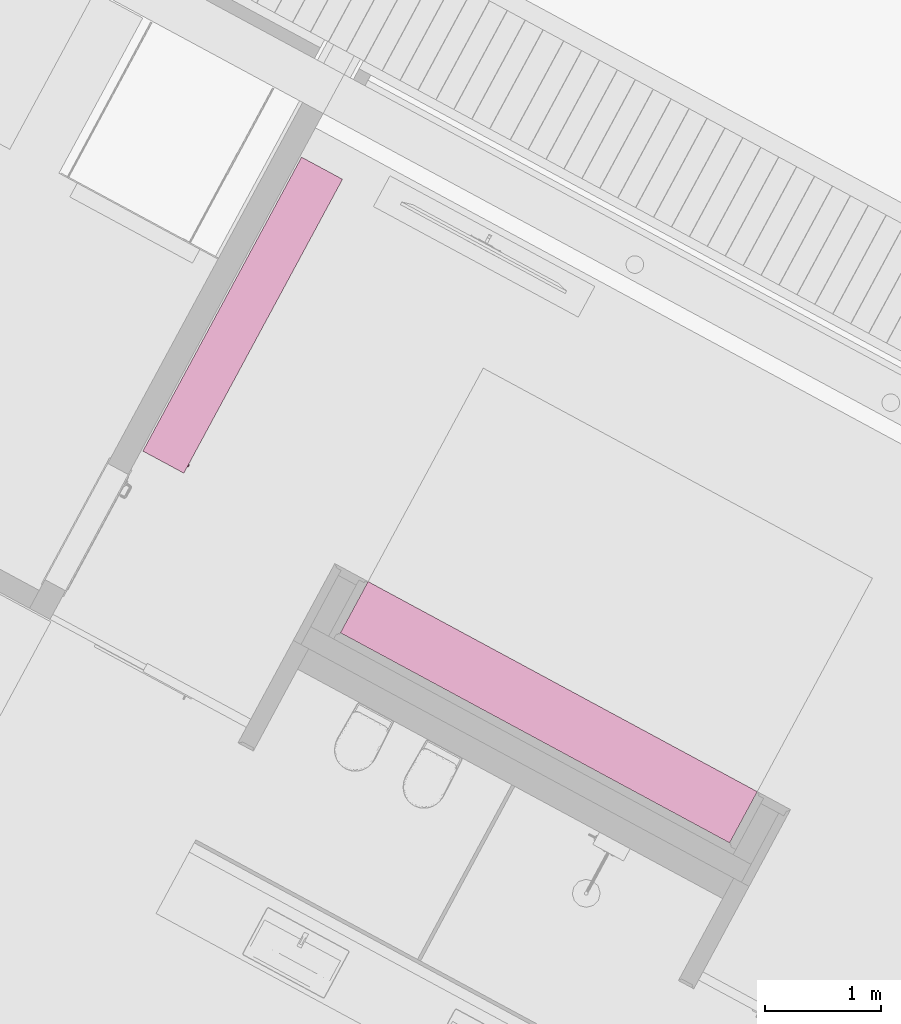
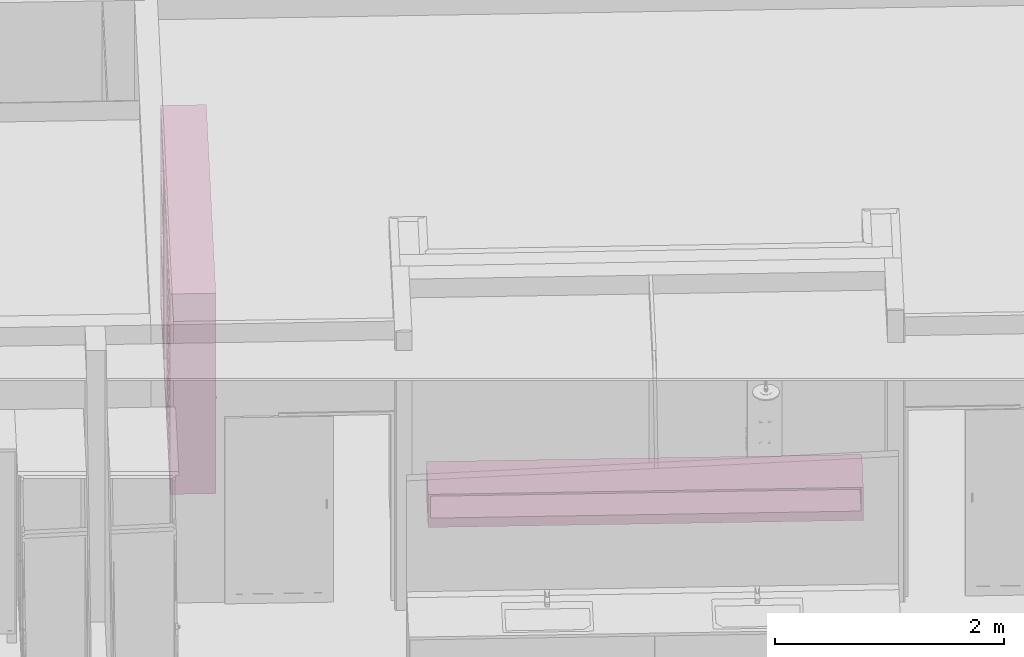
# One storey, part 33 of 48: 2 furnishings.
"""IFC2X3 building model written with IfcOpenShell, lengths in metres."""

from ifc_helpers import new_model, entity, si_unit, converted_unit, derived_unit, money_unit, direction, frame, origin_with_axes, place, context, subcontext, project, spatial, faceted_brep, type_object, element, save


model = new_model("IFC2X3")

# Units and contexts
model_context = context("Model", 3, precision=1e-05, world=origin_with_axes(), true_north=direction((0.0, 1.0)))
body_context = subcontext(model_context, "Body", "Model", "MODEL_VIEW")
ifc_project = project(units=[si_unit("LENGTHUNIT", "METRE"), si_unit("AREAUNIT", "SQUARE_METRE"), si_unit("VOLUMEUNIT", "CUBIC_METRE"), converted_unit("PLANEANGLEUNIT", "DEGREE", entity("IfcPlaneAngleMeasure", 0.0174532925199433), si_unit("PLANEANGLEUNIT", "RADIAN"), dimensions=[0, 0, 0, 0, 0, 0, 0]), money_unit("EUR"), converted_unit("TIMEUNIT", "Year", entity("IfcTimeMeasure", 31556926.0), si_unit("TIMEUNIT", "SECOND"), dimensions=[0, 0, 1, 0, 0, 0, 0]), si_unit("MASSUNIT", "GRAM", prefix="KILO"), si_unit("THERMODYNAMICTEMPERATUREUNIT", "DEGREE_CELSIUS"), si_unit("LUMINOUSINTENSITYUNIT", "LUMEN"), si_unit("ENERGYUNIT", "JOULE", prefix="MEGA"), derived_unit("THERMALCONDUCTANCEUNIT", [(si_unit("POWERUNIT", "WATT"), 1), (si_unit("LENGTHUNIT", "METRE"), -1), (si_unit("THERMODYNAMICTEMPERATUREUNIT", "KELVIN"), -1)]), derived_unit("SPECIFICHEATCAPACITYUNIT", [(si_unit("ENERGYUNIT", "JOULE"), 1), (si_unit("MASSUNIT", "GRAM", prefix="KILO"), -1), (si_unit("THERMODYNAMICTEMPERATUREUNIT", "KELVIN"), -1)]), derived_unit("MASSDENSITYUNIT", [(si_unit("MASSUNIT", "GRAM", prefix="KILO"), 1), (si_unit("VOLUMEUNIT", "CUBIC_METRE"), -1)])], contexts=[model_context])

# Site, building, storey
site_placement = place(None, frame((-3.949935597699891, 1.740105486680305, 0.0), z_axis=(0.0, 0.0, 1.0), x_axis=(0.8799804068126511, -0.475009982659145, 0.0)))
site = spatial("IfcSite", under=ifc_project, at=site_placement, Name="Gelände", CompositionType="ELEMENT")
building_placement = place(site_placement, origin_with_axes())
building = spatial("IfcBuilding", under=site, at=building_placement, Name="Gebäude", CompositionType="ELEMENT")
storey_placement = place(building_placement, frame((0.0, 0.0, 4.55), z_axis=(0.0, 0.0, 1.0), x_axis=(1.0, 0.0, 0.0)))
storey = spatial("IfcBuildingStorey", under=building, at=storey_placement, Name="Staffelgeschoss", CompositionType="ELEMENT", Elevation=4.55)

# Furnishings
furnishing_element_type_1 = type_object("IfcFurnishingElementType", Name="Kleiderschrank modular 22")
furnishing_1_placement = place(storey_placement, frame((17.78251543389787, 10.23955005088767, 0.0), z_axis=(0.0, 0.0, 1.0), x_axis=(0.0, 1.0, 0.0)))
element("IfcFurnishingElement", 1, at=furnishing_1_placement, inside=storey, type_object=furnishing_element_type_1, Name="Objekt-0066", context=body_context, shape_type="Brep", body=[
    faceted_brep([(-2.869979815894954, 0.4000000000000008, 0.09999999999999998), (-2.869979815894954, 0.0, 0.1), (-2.869979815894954, 0.0, 2.105), (-2.869979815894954, 0.4000000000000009, 2.105), (0.0, 0.4000000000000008, 0.09999999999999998), (0.0, 0.0, 0.1), (0.0, 0.0, 2.105), (-2.849979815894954, 0.0, 0.12), (-2.849979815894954, 0.0, 2.085), (-0.02, 0.0, 2.085), (-0.02, 0.0, 0.12), (0.0, 0.4000000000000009, 2.105), (-2.849979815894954, 0.4000000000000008, 0.12), (-0.02, 0.4000000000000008, 0.12), (-0.02, 0.4000000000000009, 2.085), (-2.849979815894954, 0.4000000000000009, 2.085)], [[[0, 1, 2, 3]], [[4, 5, 1, 0]], [[1, 5, 6, 2], [7, 8, 9, 10]], [[3, 2, 6, 11]], [[0, 3, 11, 4], [12, 13, 14, 15]], [[11, 6, 5, 4]], [[15, 8, 7, 12]], [[14, 9, 8, 15]], [[13, 10, 9, 14]], [[12, 7, 10, 13]]]),
    faceted_brep([(-0.9499932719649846, 0.4000000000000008, 0.12), (-0.9499932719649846, 0.4000000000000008, 2.085), (-0.9499932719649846, 0.07, 2.085), (-0.9499932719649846, 0.07, 0.12), (-0.9699932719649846, 0.4000000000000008, 0.12), (-0.9699932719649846, 0.4000000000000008, 2.085), (-0.9699932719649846, 0.07, 2.085), (-0.9699932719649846, 0.07, 0.12)], [[[0, 1, 2, 3]], [[4, 5, 1, 0]], [[1, 5, 6, 2]], [[3, 2, 6, 7]], [[0, 3, 7, 4]], [[7, 6, 5, 4]]]),
    faceted_brep([(-1.899986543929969, 0.4000000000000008, 0.12), (-1.899986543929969, 0.4000000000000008, 2.085), (-1.899986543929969, 0.07, 2.085), (-1.899986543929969, 0.07, 0.12), (-1.919986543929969, 0.4000000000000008, 0.12), (-1.919986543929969, 0.4000000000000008, 2.085), (-1.919986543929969, 0.07, 2.085), (-1.919986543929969, 0.07, 0.12)], [[[0, 1, 2, 3]], [[4, 5, 1, 0]], [[1, 5, 6, 2]], [[3, 2, 6, 7]], [[0, 3, 7, 4]], [[7, 6, 5, 4]]]),
    faceted_brep([(-2.869979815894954, 0.4000000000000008, 2.105), (-2.869979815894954, 0.0, 2.105), (-2.869979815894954, 0.0, 2.135), (-2.869979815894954, 0.4000000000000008, 2.135), (0.0, 0.4000000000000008, 2.105), (0.0, 0.0, 2.105), (0.0, 0.0, 2.135), (0.0, 0.4000000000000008, 2.135)], [[[0, 1, 2, 3]], [[0, 4, 5, 1]], [[1, 5, 6, 2]], [[3, 2, 6, 7]], [[4, 0, 3, 7]], [[5, 4, 7, 6]]]),
    faceted_brep([(-0.02000000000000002, 0.4000000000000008, 0.0), (-0.02000000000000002, 0.4000000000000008, 0.1), (-0.02000000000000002, 0.3800000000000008, 0.1), (-0.02000000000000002, 0.3800000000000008, 0.0), (-2.849979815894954, 0.4000000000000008, 0.0), (-2.849979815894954, 0.4000000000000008, 0.1), (-2.849979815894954, 0.3800000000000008, 0.1), (-2.849979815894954, 0.3800000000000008, 0.0)], [[[0, 1, 2, 3]], [[4, 5, 1, 0]], [[1, 5, 6, 2]], [[3, 2, 6, 7]], [[0, 3, 7, 4]], [[7, 6, 5, 4]]]),
    faceted_brep([(0.0, 0.4000000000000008, 0.0), (0.0, 0.4000000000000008, 0.1), (0.0, 0.0, 0.1), (0.0, 0.0, 0.0), (-0.02000000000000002, 0.4000000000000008, 0.0), (-0.02000000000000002, 0.4000000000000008, 0.1), (-0.02000000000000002, 0.0, 0.1), (-0.02000000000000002, 0.0, 0.0)], [[[0, 1, 2, 3]], [[4, 5, 1, 0]], [[1, 5, 6, 2]], [[3, 2, 6, 7]], [[0, 3, 7, 4]], [[7, 6, 5, 4]]]),
    faceted_brep([(-2.849979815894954, 0.4000000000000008, 0.0), (-2.849979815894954, 0.4000000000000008, 0.1), (-2.849979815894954, 0.0, 0.1), (-2.849979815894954, 0.0, 0.0), (-2.869979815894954, 0.4000000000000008, 0.0), (-2.869979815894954, 0.4000000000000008, 0.1), (-2.869979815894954, 0.0, 0.1), (-2.869979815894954, 0.0, 0.0)], [[[0, 1, 2, 3]], [[4, 5, 1, 0]], [[1, 5, 6, 2]], [[3, 2, 6, 7]], [[0, 3, 7, 4]], [[7, 6, 5, 4]]]),
    faceted_brep([(-0.02000000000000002, 0.04000000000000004, 0.0), (-0.02000000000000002, 0.04000000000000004, 0.1), (-0.02000000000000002, 0.02000000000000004, 0.1), (-0.02000000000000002, 0.02000000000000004, 0.0), (-2.849979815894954, 0.04000000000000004, 0.0), (-2.849979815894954, 0.04000000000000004, 0.1), (-2.849979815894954, 0.02000000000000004, 0.1), (-2.849979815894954, 0.02000000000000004, 0.0)], [[[0, 1, 2, 3]], [[4, 5, 1, 0]], [[1, 5, 6, 2]], [[3, 2, 6, 7]], [[0, 3, 7, 4]], [[7, 6, 5, 4]]]),
    faceted_brep([(-0.02, 0.4000000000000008, 0.7616666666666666), (-0.02, 0.4000000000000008, 0.7816666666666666), (-0.02, 0.07, 0.7816666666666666), (-0.02, 0.07, 0.7616666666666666), (-0.9499932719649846, 0.4000000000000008, 0.7616666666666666), (-0.9499932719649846, 0.4000000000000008, 0.7816666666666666), (-0.9499932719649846, 0.07, 0.7816666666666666), (-0.9499932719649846, 0.07, 0.7616666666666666)], [[[0, 1, 2, 3]], [[4, 5, 1, 0]], [[1, 5, 6, 2]], [[3, 2, 6, 7]], [[0, 3, 7, 4]], [[7, 6, 5, 4]]]),
    faceted_brep([(-0.02, 0.4000000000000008, 1.423333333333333), (-0.02, 0.4000000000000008, 1.443333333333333), (-0.02, 0.07, 1.443333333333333), (-0.02, 0.07, 1.423333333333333), (-0.9499932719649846, 0.4000000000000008, 1.423333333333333), (-0.9499932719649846, 0.4000000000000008, 1.443333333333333), (-0.9499932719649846, 0.07, 1.443333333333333), (-0.9499932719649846, 0.07, 1.423333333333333)], [[[0, 1, 2, 3]], [[4, 5, 1, 0]], [[1, 5, 6, 2]], [[3, 2, 6, 7]], [[0, 3, 7, 4]], [[7, 6, 5, 4]]]),
    faceted_brep([(-0.9699932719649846, 0.2190000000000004, 1.9475), (-0.9949932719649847, 0.2190000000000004, 1.9475), (-0.9949932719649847, 0.2270000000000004, 1.933643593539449), (-0.9699932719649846, 0.2270000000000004, 1.933643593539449), (-0.9699932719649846, 0.2190000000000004, 1.9725), (-0.9949932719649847, 0.2190000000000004, 1.9725), (-0.9949932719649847, 0.2270000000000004, 1.986356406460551), (-0.9949932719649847, 0.2430000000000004, 1.986356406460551), (-0.9949932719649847, 0.2510000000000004, 1.9725), (-0.9949932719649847, 0.2510000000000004, 1.9475), (-0.9949932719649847, 0.2430000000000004, 1.933643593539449), (-0.9699932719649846, 0.2430000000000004, 1.933643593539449), (-0.9699932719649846, 0.2510000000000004, 1.9475), (-0.9699932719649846, 0.2510000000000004, 1.9725), (-0.9699932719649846, 0.2430000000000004, 1.986356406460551), (-0.9699932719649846, 0.2270000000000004, 1.986356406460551)], [[[0, 1, 2, 3]], [[4, 5, 1, 0]], [[1, 5, 6, 7, 8, 9, 10, 2]], [[3, 2, 10, 11]], [[0, 3, 11, 12, 13, 14, 15, 4]], [[15, 6, 5, 4]], [[14, 7, 6, 15]], [[13, 8, 7, 14]], [[12, 9, 8, 13]], [[11, 10, 9, 12]]]),
    faceted_brep([(-0.9949932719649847, 0.2225000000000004, 1.9475), (-1.874986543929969, 0.2225000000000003, 1.9475), (-1.874986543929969, 0.2287500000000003, 1.936674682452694), (-0.9949932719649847, 0.2287500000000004, 1.936674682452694), (-0.9949932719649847, 0.2225000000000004, 1.9725), (-1.874986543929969, 0.2225000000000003, 1.9725), (-1.874986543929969, 0.2287500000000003, 1.983325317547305), (-1.874986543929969, 0.2412500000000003, 1.983325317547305), (-1.874986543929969, 0.2475000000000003, 1.9725), (-1.874986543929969, 0.2475000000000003, 1.9475), (-1.874986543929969, 0.2412500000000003, 1.936674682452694), (-0.9949932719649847, 0.2412500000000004, 1.936674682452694), (-0.9949932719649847, 0.2475000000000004, 1.9475), (-0.9949932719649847, 0.2475000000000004, 1.9725), (-0.9949932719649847, 0.2412500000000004, 1.983325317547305), (-0.9949932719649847, 0.2287500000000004, 1.983325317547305)], [[[0, 1, 2, 3]], [[4, 5, 1, 0]], [[1, 5, 6, 7, 8, 9, 10, 2]], [[3, 2, 10, 11]], [[0, 3, 11, 12, 13, 14, 15, 4]], [[15, 6, 5, 4]], [[14, 7, 6, 15]], [[13, 8, 7, 14]], [[12, 9, 8, 13]], [[11, 10, 9, 12]]]),
    faceted_brep([(-1.874986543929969, 0.2190000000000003, 1.9475), (-1.899986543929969, 0.2190000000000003, 1.9475), (-1.899986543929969, 0.2270000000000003, 1.933643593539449), (-1.874986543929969, 0.2270000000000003, 1.933643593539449), (-1.874986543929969, 0.2190000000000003, 1.9725), (-1.899986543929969, 0.2190000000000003, 1.9725), (-1.899986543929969, 0.2270000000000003, 1.986356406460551), (-1.899986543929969, 0.2430000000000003, 1.986356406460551), (-1.899986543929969, 0.2510000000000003, 1.9725), (-1.899986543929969, 0.2510000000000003, 1.9475), (-1.899986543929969, 0.2430000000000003, 1.933643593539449), (-1.874986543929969, 0.2430000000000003, 1.933643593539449), (-1.874986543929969, 0.2510000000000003, 1.9475), (-1.874986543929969, 0.2510000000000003, 1.9725), (-1.874986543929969, 0.2430000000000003, 1.986356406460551), (-1.874986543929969, 0.2270000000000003, 1.986356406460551)], [[[0, 1, 2, 3]], [[4, 5, 1, 0]], [[1, 5, 6, 7, 8, 9, 10, 2]], [[3, 2, 10, 11]], [[0, 3, 11, 12, 13, 14, 15, 4]], [[15, 6, 5, 4]], [[14, 7, 6, 15]], [[13, 8, 7, 14]], [[12, 9, 8, 13]], [[11, 10, 9, 12]]]),
    faceted_brep([(-1.919986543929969, 0.4000000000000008, 0.3835714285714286), (-1.919986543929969, 0.4000000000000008, 0.4035714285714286), (-1.919986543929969, 0.07, 0.4035714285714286), (-1.919986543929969, 0.07, 0.3835714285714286), (-2.849979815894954, 0.4000000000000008, 0.3835714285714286), (-2.849979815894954, 0.4000000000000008, 0.4035714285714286), (-2.849979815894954, 0.07, 0.4035714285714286), (-2.849979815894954, 0.07, 0.3835714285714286)], [[[0, 1, 2, 3]], [[4, 5, 1, 0]], [[1, 5, 6, 2]], [[3, 2, 6, 7]], [[0, 3, 7, 4]], [[7, 6, 5, 4]]]),
    faceted_brep([(-1.919986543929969, 0.4000000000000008, 0.667142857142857), (-1.919986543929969, 0.4000000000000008, 0.687142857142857), (-1.919986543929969, 0.07, 0.687142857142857), (-1.919986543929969, 0.07, 0.667142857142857), (-2.849979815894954, 0.4000000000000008, 0.667142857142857), (-2.849979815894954, 0.4000000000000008, 0.687142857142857), (-2.849979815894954, 0.07, 0.687142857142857), (-2.849979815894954, 0.07, 0.667142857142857)], [[[0, 1, 2, 3]], [[4, 5, 1, 0]], [[1, 5, 6, 2]], [[3, 2, 6, 7]], [[0, 3, 7, 4]], [[7, 6, 5, 4]]]),
    faceted_brep([(-1.919986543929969, 0.4000000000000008, 0.9507142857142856), (-1.919986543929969, 0.4000000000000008, 0.9707142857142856), (-1.919986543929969, 0.07, 0.9707142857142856), (-1.919986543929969, 0.07, 0.9507142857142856), (-2.849979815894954, 0.4000000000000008, 0.9507142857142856), (-2.849979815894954, 0.4000000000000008, 0.9707142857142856), (-2.849979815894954, 0.07, 0.9707142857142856), (-2.849979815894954, 0.07, 0.9507142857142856)], [[[0, 1, 2, 3]], [[4, 5, 1, 0]], [[1, 5, 6, 2]], [[3, 2, 6, 7]], [[0, 3, 7, 4]], [[7, 6, 5, 4]]]),
    faceted_brep([(-1.919986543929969, 0.4000000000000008, 1.234285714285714), (-1.919986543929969, 0.4000000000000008, 1.254285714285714), (-1.919986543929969, 0.07, 1.254285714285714), (-1.919986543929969, 0.07, 1.234285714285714), (-2.849979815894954, 0.4000000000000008, 1.234285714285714), (-2.849979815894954, 0.4000000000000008, 1.254285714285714), (-2.849979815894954, 0.07, 1.254285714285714), (-2.849979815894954, 0.07, 1.234285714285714)], [[[0, 1, 2, 3]], [[4, 5, 1, 0]], [[1, 5, 6, 2]], [[3, 2, 6, 7]], [[0, 3, 7, 4]], [[7, 6, 5, 4]]]),
    faceted_brep([(-1.919986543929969, 0.4000000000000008, 1.517857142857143), (-1.919986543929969, 0.4000000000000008, 1.537857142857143), (-1.919986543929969, 0.07, 1.537857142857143), (-1.919986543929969, 0.07, 1.517857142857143), (-2.849979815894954, 0.4000000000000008, 1.517857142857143), (-2.849979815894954, 0.4000000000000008, 1.537857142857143), (-2.849979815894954, 0.07, 1.537857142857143), (-2.849979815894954, 0.07, 1.517857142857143)], [[[0, 1, 2, 3]], [[4, 5, 1, 0]], [[1, 5, 6, 2]], [[3, 2, 6, 7]], [[0, 3, 7, 4]], [[7, 6, 5, 4]]]),
    faceted_brep([(-1.919986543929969, 0.4000000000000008, 1.801428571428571), (-1.919986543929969, 0.4000000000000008, 1.821428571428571), (-1.919986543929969, 0.07, 1.821428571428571), (-1.919986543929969, 0.07, 1.801428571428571), (-2.849979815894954, 0.4000000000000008, 1.801428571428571), (-2.849979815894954, 0.4000000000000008, 1.821428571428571), (-2.849979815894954, 0.07, 1.821428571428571), (-2.849979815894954, 0.07, 1.801428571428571)], [[[0, 1, 2, 3]], [[4, 5, 1, 0]], [[1, 5, 6, 2]], [[3, 2, 6, 7]], [[0, 3, 7, 4]], [[7, 6, 5, 4]]]),
    faceted_brep([(-0.02, 0.05000000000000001, 0.12), (-0.02, 0.01000000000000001, 0.12), (-2.849979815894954, 0.01000000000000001, 0.12), (-2.849979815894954, 0.05000000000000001, 0.12), (-0.02, 0.05000000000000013, 2.085), (-0.02, 0.01000000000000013, 2.085), (-2.849979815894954, 0.01000000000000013, 2.085), (-0.025, 0.01000000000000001, 0.125), (-2.844979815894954, 0.01000000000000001, 0.125), (-2.844979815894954, 0.01000000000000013, 2.08), (-0.025, 0.01000000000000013, 2.08), (-2.849979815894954, 0.05000000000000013, 2.085), (-0.025, 0.05000000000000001, 0.125), (-0.025, 0.05000000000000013, 2.08), (-2.844979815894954, 0.05000000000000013, 2.08), (-2.844979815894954, 0.05000000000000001, 0.125)], [[[0, 1, 2, 3]], [[4, 5, 1, 0]], [[1, 5, 6, 2], [7, 8, 9, 10]], [[3, 2, 6, 11]], [[0, 3, 11, 4], [12, 13, 14, 15]], [[11, 6, 5, 4]], [[15, 8, 7, 12]], [[14, 9, 8, 15]], [[13, 10, 9, 14]], [[12, 7, 10, 13]]]),
    faceted_brep([(-1.434989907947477, 0.05, 0.125), (-1.434989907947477, 0.03, 0.125), (-1.434989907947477, 0.03000000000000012, 2.08), (-1.434989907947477, 0.05000000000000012, 2.08), (-1.374989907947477, 0.05000000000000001, 0.185), (-1.374989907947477, 0.03000000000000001, 0.185), (-1.374989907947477, 0.03000000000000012, 2.02), (-1.374989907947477, 0.05000000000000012, 2.02)], [[[0, 1, 2, 3]], [[4, 5, 1, 0]], [[1, 5, 6, 2]], [[3, 2, 6, 7]], [[0, 3, 7, 4]], [[7, 6, 5, 4]]]),
    faceted_brep([(-0.08500000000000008, 0.05000000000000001, 0.185), (-0.08500000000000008, 0.03000000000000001, 0.185), (-0.08500000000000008, 0.03000000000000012, 2.02), (-0.08500000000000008, 0.05000000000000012, 2.02), (-0.02500000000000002, 0.05, 0.125), (-0.02500000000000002, 0.03, 0.125), (-0.02500000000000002, 0.03000000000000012, 2.08), (-0.02500000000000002, 0.05000000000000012, 2.08)], [[[0, 1, 2, 3]], [[4, 5, 1, 0]], [[1, 5, 6, 2]], [[3, 2, 6, 7]], [[0, 3, 7, 4]], [[7, 6, 5, 4]]]),
    faceted_brep([(-0.02500000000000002, 0.05, 0.125), (-0.02500000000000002, 0.03, 0.125), (-1.434989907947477, 0.03, 0.125), (-1.434989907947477, 0.05, 0.125), (-0.08500000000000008, 0.05000000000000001, 0.185), (-0.08500000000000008, 0.03000000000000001, 0.185), (-1.374989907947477, 0.03000000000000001, 0.185), (-1.374989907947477, 0.05000000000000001, 0.185)], [[[0, 1, 2, 3]], [[4, 5, 1, 0]], [[1, 5, 6, 2]], [[3, 2, 6, 7]], [[0, 3, 7, 4]], [[7, 6, 5, 4]]]),
    faceted_brep([(-0.08500000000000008, 0.05000000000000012, 2.02), (-0.08500000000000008, 0.03000000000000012, 2.02), (-1.374989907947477, 0.03000000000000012, 2.02), (-1.374989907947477, 0.05000000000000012, 2.02), (-0.02500000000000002, 0.05000000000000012, 2.08), (-0.02500000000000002, 0.03000000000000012, 2.08), (-1.434989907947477, 0.03000000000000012, 2.08), (-1.434989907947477, 0.05000000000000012, 2.08)], [[[0, 1, 2, 3]], [[4, 5, 1, 0]], [[1, 5, 6, 2]], [[3, 2, 6, 7]], [[0, 3, 7, 4]], [[7, 6, 5, 4]]]),
    faceted_brep([(-1.374989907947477, 0.04500000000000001, 0.185), (-1.374989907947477, 0.03500000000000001, 0.185), (-1.374989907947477, 0.03500000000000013, 2.02), (-1.374989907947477, 0.04500000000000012, 2.02), (-0.08500000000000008, 0.04500000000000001, 0.185), (-0.08500000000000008, 0.03500000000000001, 0.185), (-0.08500000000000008, 0.03500000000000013, 2.02), (-0.08500000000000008, 0.04500000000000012, 2.02)], [[[0, 1, 2, 3]], [[4, 5, 1, 0]], [[1, 5, 6, 2]], [[3, 2, 6, 7]], [[0, 3, 7, 4]], [[7, 6, 5, 4]]]),
    faceted_brep([(-0.0646076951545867, 0.035, 0.969), (-0.06899999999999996, 0.035, 0.9646076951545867), (-0.07499999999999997, 0.035, 0.963), (-0.08099999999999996, 0.035, 0.9646076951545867), (-0.08539230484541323, 0.035, 0.969), (-0.08699999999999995, 0.035, 0.975), (-0.08539230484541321, 0.035, 0.981), (-0.08099999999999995, 0.035, 0.9853923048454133), (-0.07499999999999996, 0.035, 0.987), (-0.06899999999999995, 0.035, 0.9853923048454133), (-0.0646076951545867, 0.035, 0.981), (-0.06299999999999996, 0.035, 0.975), (-0.0646076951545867, 0.01, 0.969), (-0.06899999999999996, 0.01, 0.9646076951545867), (-0.07499999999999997, 0.01, 0.963), (-0.08099999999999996, 0.01, 0.9646076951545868), (-0.08539230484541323, 0.01, 0.969), (-0.08699999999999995, 0.01, 0.975), (-0.08539230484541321, 0.01, 0.981), (-0.08099999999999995, 0.01, 0.9853923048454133), (-0.07499999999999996, 0.01, 0.987), (-0.06899999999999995, 0.01, 0.9853923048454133), (-0.0646076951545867, 0.01, 0.981), (-0.06299999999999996, 0.01, 0.975)], [[[0, 1, 2, 3, 4, 5, 6, 7, 8, 9, 10, 11]], [[1, 0, 12, 13]], [[2, 1, 13, 14]], [[3, 2, 14, 15]], [[4, 3, 15, 16]], [[5, 4, 16, 17]], [[6, 5, 17, 18]], [[7, 6, 18, 19]], [[8, 7, 19, 20]], [[9, 8, 20, 21]], [[10, 9, 21, 22]], [[11, 10, 22, 23]], [[0, 11, 23, 12]], [[12, 23, 22, 21, 20, 19, 18, 17, 16, 15, 14, 13]]]),
    faceted_brep([(-2.844979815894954, 0.03, 0.125), (-2.844979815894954, 0.009999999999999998, 0.125), (-2.844979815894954, 0.01000000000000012, 2.08), (-2.844979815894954, 0.03000000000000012, 2.08), (-2.784979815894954, 0.03, 0.185), (-2.784979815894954, 0.01, 0.185), (-2.784979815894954, 0.01000000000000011, 2.02), (-2.784979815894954, 0.03000000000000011, 2.02)], [[[0, 1, 2, 3]], [[4, 5, 1, 0]], [[1, 5, 6, 2]], [[3, 2, 6, 7]], [[0, 3, 7, 4]], [[7, 6, 5, 4]]]),
    faceted_brep([(-1.494989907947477, 0.03, 0.185), (-1.494989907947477, 0.01, 0.185), (-1.494989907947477, 0.01000000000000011, 2.02), (-1.494989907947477, 0.03000000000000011, 2.02), (-1.434989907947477, 0.03, 0.125), (-1.434989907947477, 0.009999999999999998, 0.125), (-1.434989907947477, 0.01000000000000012, 2.08), (-1.434989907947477, 0.03000000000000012, 2.08)], [[[0, 1, 2, 3]], [[4, 5, 1, 0]], [[1, 5, 6, 2]], [[3, 2, 6, 7]], [[0, 3, 7, 4]], [[7, 6, 5, 4]]]),
    faceted_brep([(-1.434989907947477, 0.03, 0.125), (-1.434989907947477, 0.009999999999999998, 0.125), (-2.844979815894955, 0.009999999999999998, 0.125), (-2.844979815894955, 0.03, 0.125), (-1.494989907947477, 0.03, 0.185), (-1.494989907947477, 0.01, 0.185), (-2.784979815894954, 0.01, 0.185), (-2.784979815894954, 0.03, 0.185)], [[[0, 1, 2, 3]], [[4, 5, 1, 0]], [[1, 5, 6, 2]], [[3, 2, 6, 7]], [[0, 3, 7, 4]], [[7, 6, 5, 4]]]),
    faceted_brep([(-1.494989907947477, 0.03000000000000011, 2.02), (-1.494989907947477, 0.01000000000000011, 2.02), (-2.784979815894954, 0.01000000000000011, 2.02), (-2.784979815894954, 0.03000000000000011, 2.02), (-1.434989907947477, 0.03000000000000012, 2.08), (-1.434989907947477, 0.01000000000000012, 2.08), (-2.844979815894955, 0.01000000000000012, 2.08), (-2.844979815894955, 0.03000000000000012, 2.08)], [[[0, 1, 2, 3]], [[4, 5, 1, 0]], [[1, 5, 6, 2]], [[3, 2, 6, 7]], [[0, 3, 7, 4]], [[7, 6, 5, 4]]]),
    faceted_brep([(-2.784979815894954, 0.025, 0.185), (-2.784979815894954, 0.02, 0.185), (-2.784979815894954, 0.02000000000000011, 2.02), (-2.784979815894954, 0.02500000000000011, 2.02), (-1.494989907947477, 0.025, 0.185), (-1.494989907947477, 0.02, 0.185), (-1.494989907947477, 0.02000000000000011, 2.02), (-1.494989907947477, 0.02500000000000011, 2.02)], [[[0, 1, 2, 3]], [[4, 5, 1, 0]], [[1, 5, 6, 2]], [[3, 2, 6, 7]], [[0, 3, 7, 4]], [[7, 6, 5, 4]]]),
    faceted_brep([(-2.784979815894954, 0.02, 0.185), (-2.784979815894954, 0.015, 0.185), (-2.784979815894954, 0.01500000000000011, 2.02), (-2.784979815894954, 0.02000000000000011, 2.02), (-1.494989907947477, 0.02, 0.185), (-1.494989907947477, 0.015, 0.185), (-1.494989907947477, 0.01500000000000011, 2.02), (-1.494989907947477, 0.02000000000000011, 2.02)], [[[0, 1, 2, 3]], [[4, 5, 1, 0]], [[1, 5, 6, 2]], [[3, 2, 6, 7]], [[0, 3, 7, 4]], [[7, 6, 5, 4]]]),
    faceted_brep([(-2.805372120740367, 0.015, 0.969), (-2.806979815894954, 0.015, 0.975), (-2.805372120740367, 0.015, 0.981), (-2.800979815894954, 0.015, 0.9853923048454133), (-2.794979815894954, 0.015, 0.987), (-2.788979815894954, 0.015, 0.9853923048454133), (-2.784587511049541, 0.015, 0.981), (-2.782979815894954, 0.015, 0.975), (-2.784587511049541, 0.015, 0.969), (-2.788979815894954, 0.015, 0.9646076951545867), (-2.794979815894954, 0.015, 0.963), (-2.800979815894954, 0.015, 0.9646076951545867), (-2.805372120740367, -0.01, 0.969), (-2.806979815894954, -0.01, 0.975), (-2.805372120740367, -0.01, 0.981), (-2.800979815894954, -0.01, 0.9853923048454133), (-2.794979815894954, -0.01, 0.987), (-2.788979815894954, -0.01, 0.9853923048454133), (-2.784587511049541, -0.01, 0.981), (-2.782979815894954, -0.01, 0.975), (-2.784587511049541, -0.01, 0.969), (-2.788979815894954, -0.01, 0.9646076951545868), (-2.794979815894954, -0.01, 0.963), (-2.800979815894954, -0.01, 0.9646076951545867)], [[[0, 1, 2, 3, 4, 5, 6, 7, 8, 9, 10, 11]], [[0, 12, 13, 1]], [[1, 13, 14, 2]], [[2, 14, 15, 3]], [[3, 15, 16, 4]], [[4, 16, 17, 5]], [[5, 17, 18, 6]], [[6, 18, 19, 7]], [[7, 19, 20, 8]], [[8, 20, 21, 9]], [[9, 21, 22, 10]], [[10, 22, 23, 11]], [[11, 23, 12, 0]], [[12, 23, 22, 21, 20, 19, 18, 17, 16, 15, 14, 13]]]),
])
furnishing_element_type_2 = type_object("IfcFurnishingElementType", Name="Regal 1 22")
furnishing_2_placement = place(storey_placement, frame((23.41753332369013, 7.302148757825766, 0.0), z_axis=(0.0, 0.0, 1.0), x_axis=(1.0, 0.0, 0.0)))
element("IfcFurnishingElement", 2, at=furnishing_2_placement, inside=storey, type_object=furnishing_element_type_2, Name="Objekt-0067", context=body_context, shape_type="Brep", body=[
    faceted_brep([(-3.780000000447, -0.00999999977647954, 0.0), (-0.019999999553, -0.009999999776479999, 0.0), (-0.01999999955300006, -0.4999999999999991, 0.0), (-3.780000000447, -0.4999999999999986, 0.0), (-3.780000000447, -0.00999999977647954, 0.10000000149), (-0.019999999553, -0.009999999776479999, 0.10000000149), (-0.01999999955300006, -0.4999999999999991, 0.10000000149), (-3.780000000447, -0.4999999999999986, 0.10000000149)], [[[0, 1, 2, 3]], [[1, 0, 4, 5]], [[2, 1, 5, 6]], [[3, 2, 6, 7]], [[0, 3, 7, 4]], [[5, 4, 7, 6]]]),
    faceted_brep([(-0.019999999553, 0.0, 0.0), (0.0, 0.0, 0.0), (0.0, -0.4999999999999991, 0.0), (-0.01999999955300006, -0.4999999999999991, 0.0), (-0.019999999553, 0.0, 0.3527297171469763), (0.0, 0.0, 0.3527297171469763), (0.0, -0.4999999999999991, 0.3527297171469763), (-0.01999999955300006, -0.4999999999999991, 0.3527297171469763)], [[[0, 1, 2, 3]], [[1, 0, 4, 5]], [[2, 1, 5, 6]], [[3, 2, 6, 7]], [[0, 3, 7, 4]], [[5, 4, 7, 6]]]),
    faceted_brep([(-3.800000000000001, 0.0, 0.0), (-3.780000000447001, 0.0, 0.0), (-3.780000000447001, -0.4999999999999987, 0.0), (-3.800000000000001, -0.4999999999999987, 0.0), (-3.800000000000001, 0.0, 0.3527297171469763), (-3.780000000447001, 0.0, 0.3527297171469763), (-3.780000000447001, -0.4999999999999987, 0.3527297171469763), (-3.800000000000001, -0.4999999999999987, 0.3527297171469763)], [[[0, 1, 2, 3]], [[1, 0, 4, 5]], [[2, 1, 5, 6]], [[3, 2, 6, 7]], [[0, 3, 7, 4]], [[5, 4, 7, 6]]]),
    faceted_brep([(-3.780000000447, 0.0, 0.0), (-0.019999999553, 0.0, 0.0), (-0.019999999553, -0.009999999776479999, 0.0), (-3.780000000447, -0.00999999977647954, 0.0), (-3.780000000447, 0.0, 0.3327297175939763), (-0.019999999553, 0.0, 0.3327297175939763), (-0.019999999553, -0.009999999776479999, 0.3327297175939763), (-3.780000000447, -0.00999999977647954, 0.3327297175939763)], [[[0, 1, 2, 3]], [[1, 0, 4, 5]], [[2, 1, 5, 6]], [[3, 2, 6, 7]], [[0, 3, 7, 4]], [[5, 4, 7, 6]]]),
    faceted_brep([(-3.780000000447, 0.0, 0.3327297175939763), (-0.019999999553, 0.0, 0.3327297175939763), (-0.01999999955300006, -0.4999999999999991, 0.3327297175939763), (-3.780000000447, -0.4999999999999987, 0.3327297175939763), (-3.780000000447, 0.0, 0.3527297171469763), (-0.019999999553, 0.0, 0.3527297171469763), (-0.01999999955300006, -0.4999999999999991, 0.3527297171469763), (-3.780000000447, -0.4999999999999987, 0.3527297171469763)], [[[0, 1, 2, 3]], [[1, 0, 4, 5]], [[2, 1, 5, 6]], [[3, 2, 6, 7]], [[0, 3, 7, 4]], [[5, 4, 7, 6]]]),
])

save(model, "model.ifc")
